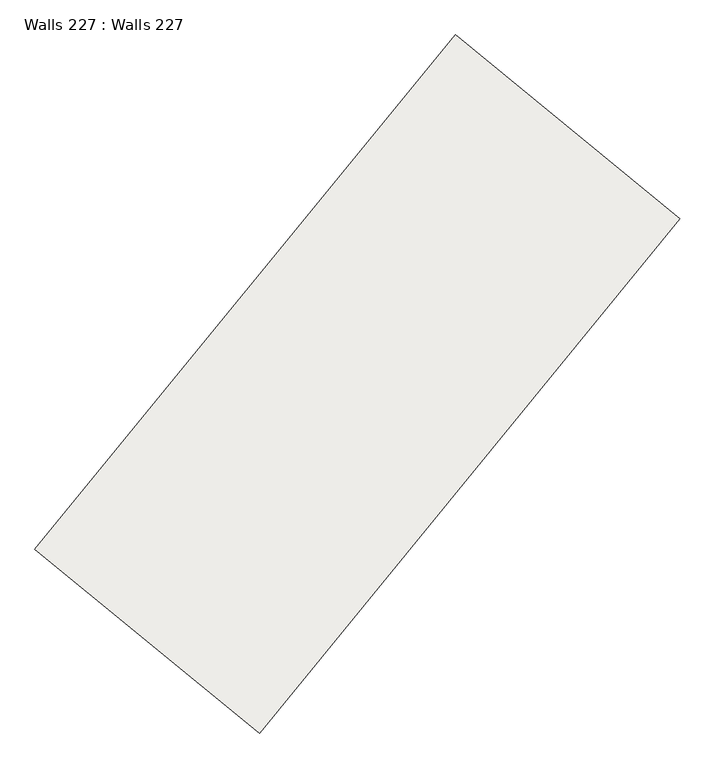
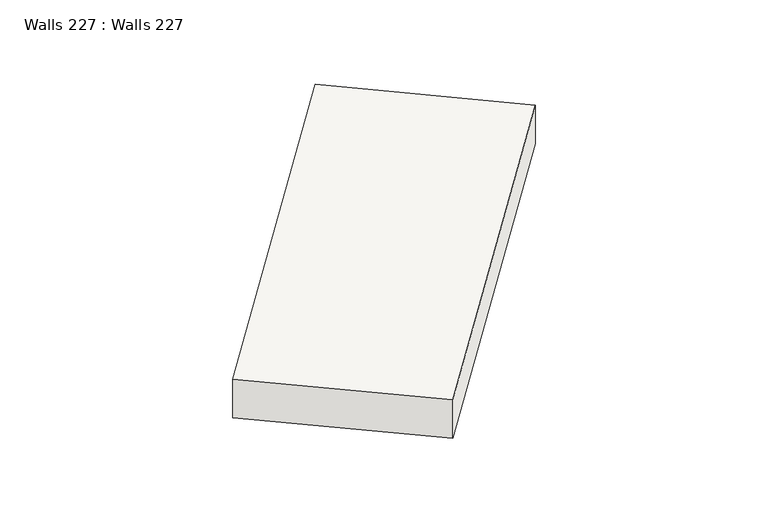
"""IFC4 building model written with IfcOpenShell, lengths in millimetres: slab geometry, Walls 227 : Walls 227."""

from ifc_helpers import new_model, si_unit, frame, origin, place, context, project, spatial, polyline, outline, extrude, source, transform, mapped, element, save


def walls_227_walls_227_7f520c1f(model_context):
    return source(origin(), model_context, "Body", "SweptSolid", [
        extrude(outline(polyline([(-400.0, 0.0), (400.0, 0.0), (288.0, -8699.9999993), (-512.0, -8699.9999993), (-400.0, 0.0)])), frame((418658.0274519, 290667.4526974, 645762.0), z_axis=(-0.7739621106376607, 0.633231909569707, 0.0), x_axis=(0.0, 0.0, 1.0)), (0.0, 0.0, 1.0), 3800.0),
    ])


if __name__ == "__main__":
    model = new_model("IFC4")
    model_context = context("Model", 3, world=origin())
    ifc_project = project(units=[si_unit("LENGTHUNIT", "METRE", prefix="MILLI")], contexts=[model_context])
    site = spatial("IfcSite", under=ifc_project)
    building = spatial("IfcBuilding", under=site)
    placement = place(None, origin())
    walls_227_walls_227_shape = walls_227_walls_227_7f520c1f(model_context)
    element("IfcSlab", 1, ObjectType="Walls 227 : Walls 227", at=placement, inside=building, context=model_context, shape_type="MappedRepresentation", body=[
        mapped(walls_227_walls_227_shape, transform((0.0, 0.0, 0.0), x_axis=(1.0, 0.0, 0.0), y_axis=(0.0, 1.0, 0.0), z_axis=(0.0, 0.0, 1.0))),
    ])
    save(model, "model.ifc")
